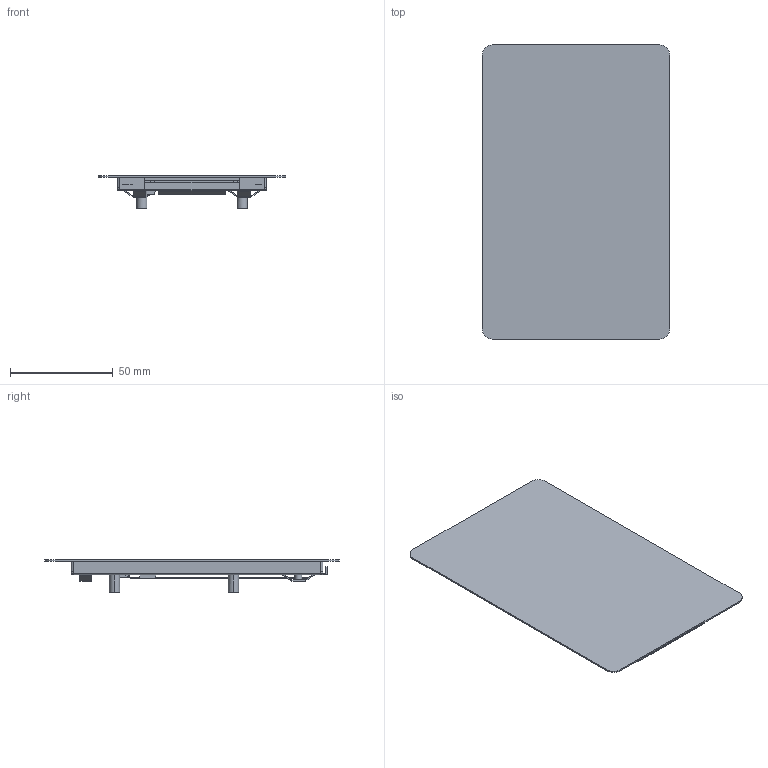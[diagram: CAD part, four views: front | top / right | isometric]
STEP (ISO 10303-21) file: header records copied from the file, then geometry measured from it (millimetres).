
FILE_DESCRIPTION (( 'STEP AP203' ), '1' );
FILE_NAME ('raspberry-pi-touch-display-2-step-5inch.step', '2026-09-24T14:15:43', ( '' ), ( '' ), 'SwSTEP 2.0', 'SolidWorks 2021', '' );
FILE_SCHEMA (( 'CONFIG_CONTROL_DESIGN' ));
Length unit declared in the file: millimetre
Products named in the file (12): 2222; 22222; 222; 111; raspberry-pi-touch-display-2-step-5inch; 3333; raspberry-pi-touch-display-2-step-5inch(2); 333; 33333; 666; 555; 444
Assembly tree (14 placements, depth 5):
  raspberry-pi-touch-display-2-step-5inch
    raspberry-pi-touch-display-2-step-5inch(2)
      111
        222
          2222
          22222
        333
          3333
          33333  x4
        444
        555
        666
Bounding box: 91.46 x 143.4 x 15.9 mm (x, y, z)
Volume: 30329.9 mm3; surface area: 88300.5 mm2
Topology: 10 solids, 18 shells, 570 faces, 1436 edges, 922 vertices
Faces by surface type: plane 402, cylinder 144, cone 16, bspline 4, torus 4
Entity records: 17465 total; most frequent: CARTESIAN_POINT 3261, ORIENTED_EDGE 2660, DIRECTION 2614, EDGE_CURVE 1332, LINE 1038, VECTOR 1038, VERTEX_POINT 859, AXIS2_PLACEMENT_3D 788
